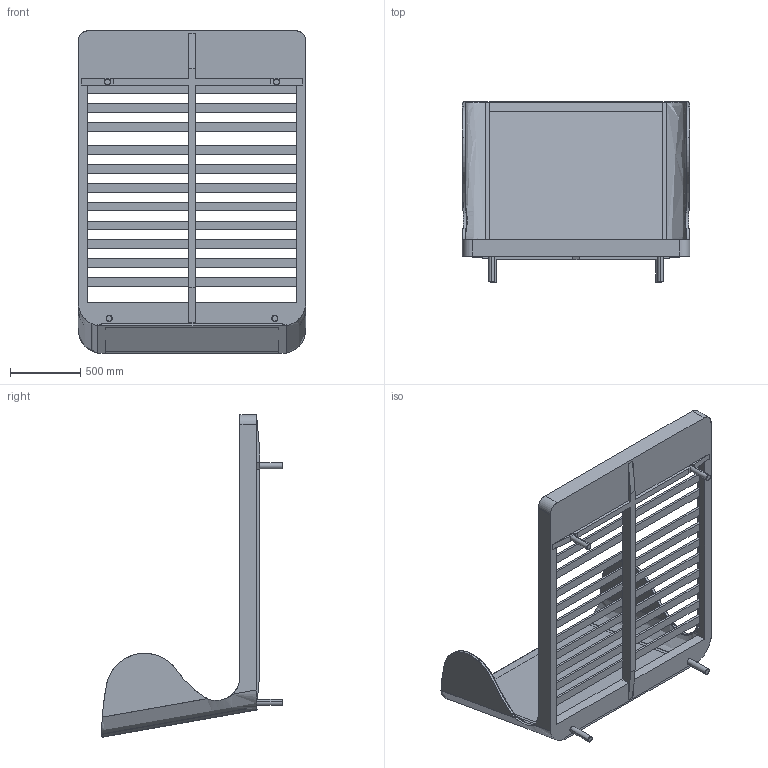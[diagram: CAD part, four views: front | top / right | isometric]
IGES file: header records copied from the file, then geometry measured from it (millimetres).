
Start section: SolidWorks IGES file using analytic representation for surfaces
Global section: file name: C:\Users\David.BDLE\Desktop\265AQ Suite Bed_vi_2019-01-10\265AQ Suite Bed_vi_cama prmt.IGS; native system: SolidWorks 2016; preprocessor: SolidWorks 2016; author: David; date: 191203.110212; units: millimetre
Bounding box: 1615 x 1284.15 x 2288.71 mm (x, y, z)
Surface area: 15948599.8 mm2 (no closed solid volume)
Topology: 0 solids, 0 shells, 266 faces, 2951 edges, 2951 vertices
Faces by surface type: bspline 212, revolution 54
